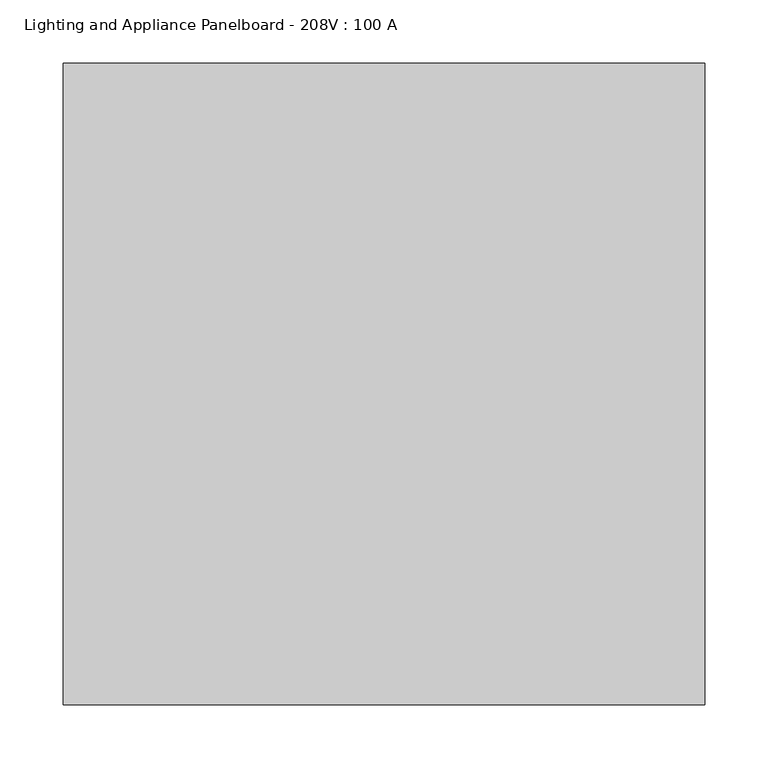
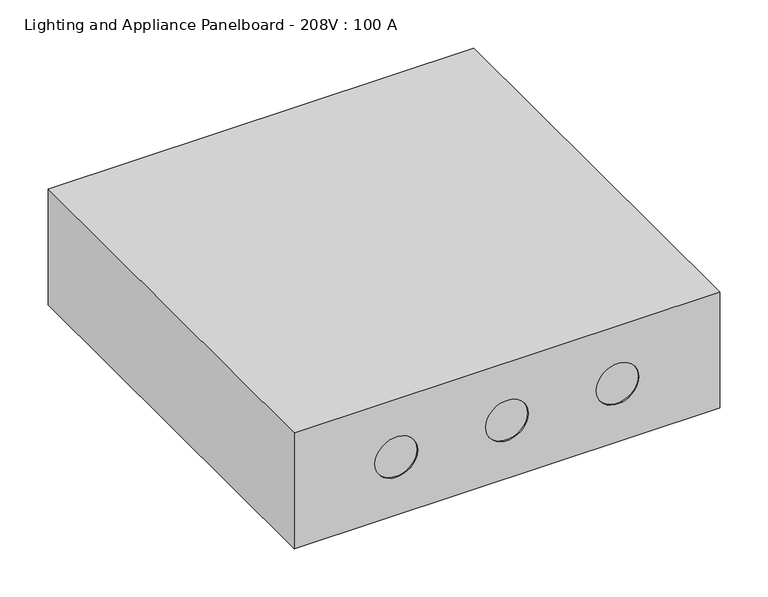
"""IFC4 building model written with IfcOpenShell, lengths in millimetres: proxy geometry, Lighting and Appliance Panelboard - 208V : 100 A."""

from ifc_helpers import new_model, si_unit, frame, origin, place, context, project, spatial, polyline, circle_curve, source, transform, mapped, element, save
from ifc_brep_helpers import plane_surface, revolved_surface, advanced_brep


def lighting_and_appliance_panelboard_208v_100_a_7126e705(model_context):
    return source(origin(), model_context, "Body", "AdvancedBrep", [
        advanced_brep(
        [(254.0, 254.0, 0.0), (-254.0, 254.0, 0.0), (-254.0, -254.0, 0.0), (254.0, -254.0, 0.0), (254.0, 254.0, -146.05), (254.0, -254.0, -146.05), (-254.0, -254.0, -146.05), (-254.0, 254.0, -146.05), (106.7240666, -254.0, -73.025), (157.5240666, -254.0, -73.025), (-25.4, -254.0, -73.025), (25.4, -254.0, -73.025), (-157.4066441, -254.0, -73.025), (-106.6066441, -254.0, -73.025), (157.5240666, -252.5959659, -73.025), (106.7240666, -252.5959659, -73.025), (25.4, -252.5959659, -73.025), (-25.4, -252.5959659, -73.025), (-106.6066441, -252.5959659, -73.025), (-157.4066441, -252.5959659, -73.025)],
        [
            (0, 1),
            (1, 2),
            (2, 3),
            (3, 0),
            (4, 5),
            (5, 6),
            (6, 7),
            (7, 4),
            (0, 4),
            (7, 1),
            (6, 2),
            (5, 3),
            (8, 9, circle_curve(frame((132.1240666, -254.0, -73.025), z_axis=(0.0, 1.0, 0.0), x_axis=(-1.0, 0.0, 0.0)), 25.4)),
            (9, 8, circle_curve(frame((132.1240666, -254.0, -73.025), z_axis=(0.0, 1.0, 0.0), x_axis=(-1.0, 0.0, 0.0)), 25.4)),
            (10, 11, circle_curve(frame((0.0, -254.0, -73.025), z_axis=(0.0, 1.0, 0.0), x_axis=(-1.0, 0.0, 0.0)), 25.4)),
            (11, 10, circle_curve(frame((0.0, -254.0, -73.025), z_axis=(0.0, 1.0, 0.0), x_axis=(-1.0, 0.0, 0.0)), 25.4)),
            (12, 13, circle_curve(frame((-132.0066441, -254.0, -73.025), z_axis=(0.0, 1.0, 0.0), x_axis=(-1.0, 0.0, 0.0)), 25.4)),
            (13, 12, circle_curve(frame((-132.0066441, -254.0, -73.025), z_axis=(0.0, 1.0, 0.0), x_axis=(-1.0, 0.0, 0.0)), 25.4)),
            (14, 15, circle_curve(frame((132.1240666, -252.5959659, -73.025), z_axis=(0.0, -1.0, 0.0), x_axis=(-1.0, 0.0, 0.0)), 25.4)),
            (15, 14, circle_curve(frame((132.1240666, -252.5959659, -73.025), z_axis=(0.0, -1.0, 0.0), x_axis=(-1.0, 0.0, 0.0)), 25.4)),
            (16, 17, circle_curve(frame((0.0, -252.5959659, -73.025), z_axis=(0.0, -1.0, 0.0), x_axis=(-1.0, 0.0, 0.0)), 25.4)),
            (17, 16, circle_curve(frame((0.0, -252.5959659, -73.025), z_axis=(0.0, -1.0, 0.0), x_axis=(-1.0, 0.0, 0.0)), 25.4)),
            (18, 19, circle_curve(frame((-132.0066441, -252.5959659, -73.025), z_axis=(0.0, -1.0, 0.0), x_axis=(-1.0, 0.0, 0.0)), 25.4)),
            (19, 18, circle_curve(frame((-132.0066441, -252.5959659, -73.025), z_axis=(0.0, -1.0, 0.0), x_axis=(-1.0, 0.0, 0.0)), 25.4)),
            (14, 9),
            (8, 15),
            (16, 11),
            (10, 17),
            (18, 13),
            (12, 19),
        ],
        [
            plane_surface(frame((-254.0, 254.0, 0.0), z_axis=(0.0, 0.0, 1.0), x_axis=(-1.0, 0.0, 0.0))),
            plane_surface(frame((-254.0, 254.0, -146.05), z_axis=(0.0, 0.0, -1.0), x_axis=(1.0, 0.0, 0.0))),
            plane_surface(frame((254.0, 254.0, 0.0), z_axis=(0.0, 1.0, 0.0), x_axis=(0.0, 0.0, -1.0))),
            plane_surface(frame((-254.0, 254.0, 0.0), z_axis=(-1.0, 0.0, 0.0), x_axis=(0.0, 0.0, -1.0))),
            plane_surface(frame((-254.0, -254.0, 0.0), z_axis=(0.0, -1.0, 0.0), x_axis=(0.0, 0.0, -1.0))),
            plane_surface(frame((254.0, -254.0, 0.0), z_axis=(1.0, 0.0, 0.0), x_axis=(0.0, 0.0, -1.0))),
            plane_surface(frame((106.7240666, -252.5959659, -73.025), z_axis=(0.0, -1.0, 0.0), x_axis=(0.0, 0.0, 1.0))),
            revolved_surface(polyline([(106.72406659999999, -254.0, -73.025), (106.72406659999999, -252.5959659, -73.025)]), (132.1240666, -252.5959659, -73.025), (0.0, -1.0, 0.0)),
            revolved_surface(polyline([(-25.4, -254.0, -73.025), (-25.4, -252.5959659, -73.025)]), (0.0, 254.0, -73.025), (0.0, -1.0, 0.0)),
            revolved_surface(polyline([(-157.4066441, -254.0, -73.025), (-157.4066441, -252.5959659, -73.025)]), (-132.0066441, 254.0, -73.025), (0.0, -1.0, 0.0)),
        ],
        [
            (0, [[1, 2, 3, 4]]),
            (1, [[5, 6, 7, 8]]),
            (2, [[-1, 9, -8, 10]]),
            (3, [[-2, -10, -7, 11]]),
            (4, [[-3, -11, -6, 12], [13, 14], [15, 16], [17, 18]]),
            (5, [[-4, -12, -5, -9]]),
            (6, [[19, 20]]),
            (6, [[21, 22]]),
            (6, [[23, 24]]),
            (7, [[-19, 25, -13, 26]]),
            (7, [[-20, -26, -14, -25]]),
            (8, [[-21, 27, -15, 28]]),
            (8, [[-22, -28, -16, -27]]),
            (9, [[-23, 29, -17, 30]]),
            (9, [[-24, -30, -18, -29]]),
        ],
    ),
    ])


if __name__ == "__main__":
    model = new_model("IFC4")
    model_context = context("Model", 3, world=origin())
    ifc_project = project(units=[si_unit("LENGTHUNIT", "METRE", prefix="MILLI")], contexts=[model_context])
    site = spatial("IfcSite", under=ifc_project)
    building = spatial("IfcBuilding", under=site)
    placement = place(None, origin())
    lighting_and_appliance_panelboard_208v_100_a_shape = lighting_and_appliance_panelboard_208v_100_a_7126e705(model_context)
    element("IfcBuildingElementProxy", 1, Name="Lighting and Appliance Panelboard - 208V : 100 A", ObjectType="Lighting and Appliance Panelboard - 208V : 100 A", at=placement, inside=building, context=model_context, shape_type="MappedRepresentation", body=[
        mapped(lighting_and_appliance_panelboard_208v_100_a_shape, transform((0.0, 0.0, 0.0), x_axis=(1.0, 0.0, 0.0), y_axis=(0.0, 1.0, 0.0), z_axis=(0.0, 0.0, 1.0))),
    ])
    save(model, "model.ifc")
